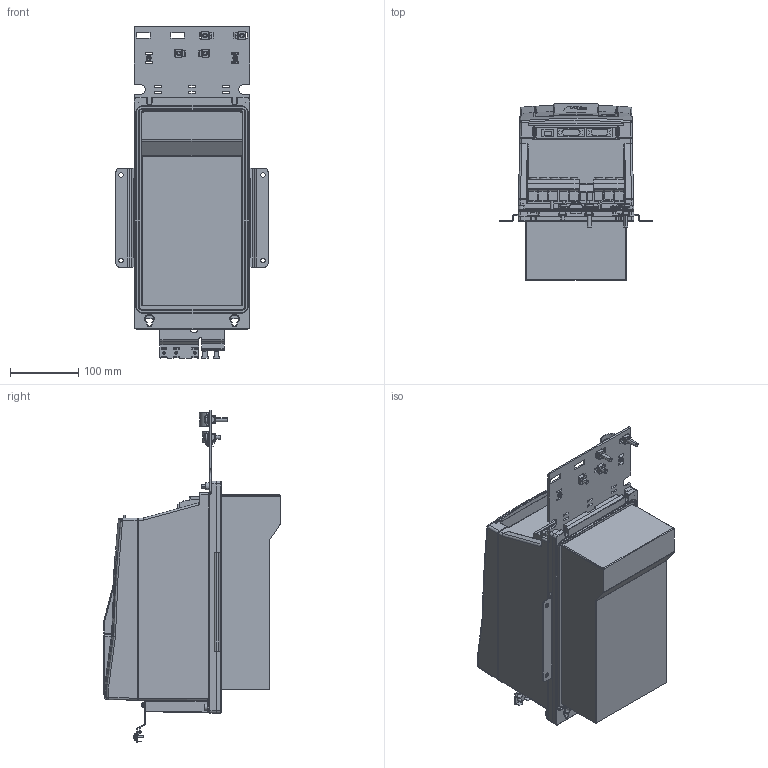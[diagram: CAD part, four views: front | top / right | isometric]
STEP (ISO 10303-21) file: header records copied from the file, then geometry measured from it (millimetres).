
FILE_DESCRIPTION (( 'STEP AP214' ), '1' );
FILE_NAME ('10051471_000.STEP', '2021-01-18T09:30:43', ( '' ), ( '' ), 'SwSTEP 2.0', 'SolidWorks 2019', '' );
FILE_SCHEMA (( 'AUTOMOTIVE_DESIGN' ));
Length unit declared in the file: millimetre
Products named in the file (15): 10059765_000; 10060358_000; 10044643_000_Kundenmodell; 10063309_000; 10047114_000_Kundenmodell; 10047094_000_Mit K„figmutterSM-FLAT-PATTERN; 10063222_000; 10051470_000_Leistungsteil TR5 (Kundenmodell); 10051471_000; 10061030_000_Kundenmodell; 10040482_000_Kundenmodell; 10059761_000; 10001531_000; 10060393_000; 10059764_000_Blindabdeckung (Kundenmodell)
Assembly tree (15 placements, depth 4):
  10051471_000
    10051470_000_Leistungsteil TR5 (Kundenmodell)
      10060358_000
    10040482_000_Kundenmodell
      10060393_000
    10044643_000_Kundenmodell
      10059764_000_Blindabdeckung (Kundenmodell)
        10059765_000
      10059761_000
    10047114_000_Kundenmodell
      10047094_000_Mit K„figmutterSM-FLAT-PATTERN
      10063222_000
    10061030_000_Kundenmodell
      10063309_000
    10001531_000  x2
Bounding box: 223 x 258.4 x 486.8 mm (x, y, z)
Volume: 10656514.6 mm3; surface area: 740699 mm2
Topology: 21 solids, 29 shells, 3652 faces, 9580 edges, 6064 vertices
Faces by surface type: plane 1747, cylinder 1211, bspline 351, torus 148, cone 129, sphere 66
Entity records: 125068 total; most frequent: CARTESIAN_POINT 33296, ORIENTED_EDGE 18852, DIRECTION 17497, EDGE_CURVE 9426, AXIS2_PLACEMENT_3D 6041, VERTEX_POINT 6006, LINE 5415, VECTOR 5415
